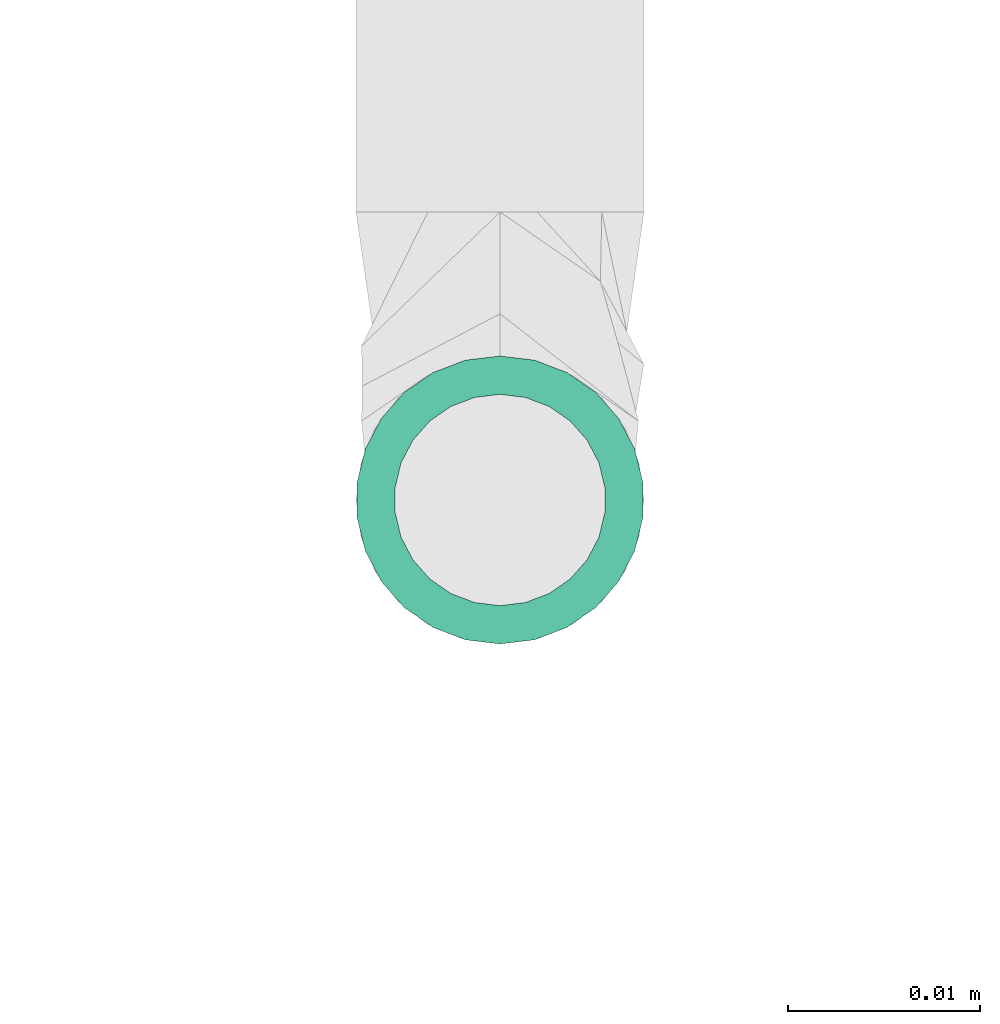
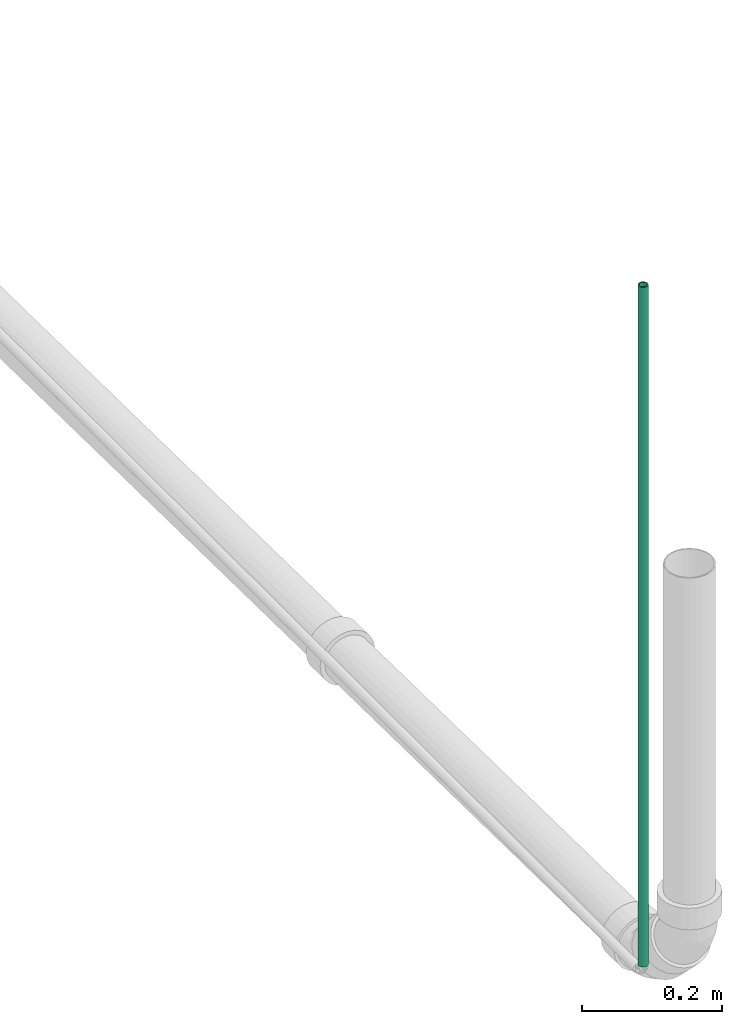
# One storey, part 2 of 18: 1 flow segment.
"""IFC2X3 building model written with IfcOpenShell, lengths in millimetres."""

import ifcopenshell
import ifcopenshell.guid

model = None  # the IFC model being written
_history = None  # IfcOwnerHistory: only IFC2X3 demands one
_inside = {}  # id of a spatial element -> (the spatial element, [elements in it])
_under = {}  # id of a project, library or spatial element -> (it, [spatial elements below it])
_declared = {}  # id of a project -> (the project, [libraries it declares])
_typed = {}  # id of a type object -> (the type object, [elements of that type])
_made_of = {}  # id of a material, layer set ... -> (it, [elements and type objects made of it])


def new_model(schema):
    """Start an empty IFC model of exactly this schema.

    Asked for "IFC4X3", IfcOpenShell would pick the latest addendum, in which some entities
    have other attributes; the version numbers below select the first issue.
    IFC2X3 requires an IfcOwnerHistory on every rooted entity: one is made here for all.
    """
    global model, _history
    if schema == "IFC4X3":
        model = ifcopenshell.file(schema_version=(4, 3, 0, 0))
    else:
        model = ifcopenshell.file(schema=schema)
    _inside.clear()
    _under.clear()
    _declared.clear()
    _typed.clear()
    _made_of.clear()
    _history = None
    if model.schema == "IFC2X3":
        org = make("IfcOrganization", Name="unknown")
        user = make(
            "IfcPersonAndOrganization",
            ThePerson=make("IfcPerson", FamilyName="unknown"),
            TheOrganization=org,
        )
        app = make(
            "IfcApplication",
            ApplicationDeveloper=org,
            Version="unknown",
            ApplicationFullName="unknown",
            ApplicationIdentifier="unknown",
        )
        _history = make(
            "IfcOwnerHistory",
            OwningUser=user,
            OwningApplication=app,
            ChangeAction="ADDED",
            CreationDate=0,
        )
    return model


def make(cls, **values):
    """One entity of the class cls with the attributes given. An attribute that is None is left unset."""
    return model.create_entity(
        cls, **{name: value for name, value in values.items() if value is not None}
    )


def entity(cls, *values):
    """Any entity or typed value of the class cls, its attributes in the order of the schema. None: left unset."""
    e = model.create_entity(cls)
    for i, value in enumerate(values):
        if value is not None:
            e[i] = value
    return e


def rooted(cls, **values):
    """An entity with a GlobalId (a new one), such as an element, a storey or a relation."""
    return make(cls, GlobalId=ifcopenshell.guid.new(), OwnerHistory=_history, **values)


def si_unit(unit_type, name, prefix=None):
    """IfcSIUnit, for example si_unit("LENGTHUNIT", "METRE", prefix="MILLI")."""
    return make("IfcSIUnit", UnitType=unit_type, Prefix=prefix, Name=name)


def converted_unit(unit_type, name, factor, base, dimensions=None, offset=None):
    """IfcConversionBasedUnit, such as the inch: factor (a typed value) times the base unit."""
    return make(
        "IfcConversionBasedUnit"
        if offset is None
        else "IfcConversionBasedUnitWithOffset",
        ConversionOffset=offset,
        Dimensions=None
        if dimensions is None
        else entity("IfcDimensionalExponents", *dimensions),
        UnitType=unit_type,
        Name=name,
        ConversionFactor=make(
            "IfcMeasureWithUnit", ValueComponent=factor, UnitComponent=base
        ),
    )


def derived_unit(unit_type, elements):
    """IfcDerivedUnit: a product of units, each with its exponent."""
    return make(
        "IfcDerivedUnit",
        Elements=[
            make("IfcDerivedUnitElement", Unit=unit, Exponent=power)
            for unit, power in elements
        ],
        UnitType=unit_type,
    )


def assignment(units):
    """IfcUnitAssignment: the units of a project."""
    return None if units is None else make("IfcUnitAssignment", Units=units)


def point(xyz):
    """IfcCartesianPoint."""
    return None if xyz is None else make("IfcCartesianPoint", Coordinates=xyz)


def direction(xyz):
    """IfcDirection."""
    return None if xyz is None else make("IfcDirection", DirectionRatios=xyz)


def frame(location, z_axis=None, x_axis=None):
    """IfcAxis2Placement3D, a coordinate frame: its origin and axes. An axis left out is left unset."""
    return make(
        "IfcAxis2Placement3D",
        Location=point(location),
        Axis=direction(z_axis),
        RefDirection=direction(x_axis),
    )


def frame_2d(location, x_axis=None):
    """IfcAxis2Placement2D, a coordinate frame in the plane: its origin and x axis."""
    return make(
        "IfcAxis2Placement2D", Location=point(location), RefDirection=direction(x_axis)
    )


def origin_with_axes():
    """The frame at (0, 0, 0) with the z axis (0, 0, 1) and the x axis (1, 0, 0) written out."""
    return frame((0.0, 0.0, 0.0), z_axis=(0.0, 0.0, 1.0), x_axis=(1.0, 0.0, 0.0))


def origin_2d_with_axis():
    """The frame at (0, 0) in the plane with the x axis (1, 0) written out."""
    return frame_2d((0.0, 0.0), x_axis=(1.0, 0.0))


def place(relative_to, where):
    """IfcLocalPlacement: puts the frame where relative to a parent placement (None: the world)."""
    return make(
        "IfcLocalPlacement", PlacementRelTo=relative_to, RelativePlacement=where
    )


def context(
    kind, dimensions, precision=None, world=None, true_north=None, identifier=None
):
    """IfcGeometricRepresentationContext, for example the 3D "Model" context."""
    return make(
        "IfcGeometricRepresentationContext",
        ContextIdentifier=identifier,
        ContextType=kind,
        CoordinateSpaceDimension=dimensions,
        Precision=precision,
        WorldCoordinateSystem=world,
        TrueNorth=true_north,
    )


def subcontext(parent, identifier, kind, view, scale=None):
    """IfcGeometricRepresentationSubContext, for example "Body" below "Model"."""
    return make(
        "IfcGeometricRepresentationSubContext",
        ContextIdentifier=identifier,
        ContextType=kind,
        ParentContext=parent,
        TargetScale=scale,
        TargetView=view,
    )


def project(units=None, contexts=None):
    """IfcProject with its units and contexts."""
    return rooted(
        "IfcProject",
        Name="project",
        RepresentationContexts=contexts,
        UnitsInContext=assignment(units),
    )


def spatial(cls, under=None, at=None, **own):
    """A site, building, storey or space (cls), placed at a placement, below another one or the project."""
    s = rooted(cls, ObjectPlacement=at, **own)
    if under is not None:
        _under.setdefault(under.id(), (under, []))[1].append(s)
    return s


def profile(cls, at=None, kind="AREA", **sizes):
    """A parametric profile (cls). Its sizes go by their IFC names, for example OverallWidth=200.0."""
    return make(cls, ProfileType=kind, Position=at, **sizes)


def hollow_circle(**sizes):
    """IfcCircleHollowProfileDef."""
    return profile("IfcCircleHollowProfileDef", **sizes)


def extrude(swept, where, along, depth):
    """IfcExtrudedAreaSolid: the profile swept, set in the frame where, extruded along a direction by depth."""
    return make(
        "IfcExtrudedAreaSolid",
        SweptArea=swept,
        Position=where,
        ExtrudedDirection=direction(along),
        Depth=depth,
    )


def shape(context_of_items, identifier, shape_type, items):
    """IfcShapeRepresentation: the items that make up one representation, for example the "Body"."""
    return make(
        "IfcShapeRepresentation",
        ContextOfItems=context_of_items,
        RepresentationIdentifier=identifier,
        RepresentationType=shape_type,
        Items=items,
    )


def source(mapping_origin, context_of_items, identifier, shape_type, items):
    """IfcRepresentationMap: a shape defined once, which mapped items show again and again."""
    return make(
        "IfcRepresentationMap",
        MappingOrigin=mapping_origin,
        MappedRepresentation=shape(context_of_items, identifier, shape_type, items),
    )


def transform(
    local_origin,
    x_axis=None,
    y_axis=None,
    z_axis=None,
    scale=None,
    scale2=None,
    scale3=None,
    uniform=True,
):
    """IfcCartesianTransformationOperator3D, or its non-uniform kind. x_axis, y_axis, z_axis: its Axis1, 2, 3."""
    if uniform:
        return make(
            "IfcCartesianTransformationOperator3D",
            Axis1=direction(x_axis),
            Axis2=direction(y_axis),
            LocalOrigin=point(local_origin),
            Scale=scale,
            Axis3=direction(z_axis),
        )
    return make(
        "IfcCartesianTransformationOperator3DnonUniform",
        Axis1=direction(x_axis),
        Axis2=direction(y_axis),
        LocalOrigin=point(local_origin),
        Scale=scale,
        Axis3=direction(z_axis),
        Scale2=scale2,
        Scale3=scale3,
    )


def mapped(mapping_source, mapping_target):
    """IfcMappedItem: shows the shape of a source again, moved by a transform."""
    return make(
        "IfcMappedItem", MappingSource=mapping_source, MappingTarget=mapping_target
    )


def made_of(thing, what):
    """Note that an element or type object is made of a material, layer set ...; save() writes the relation."""
    if what is not None:
        _made_of.setdefault(what.id(), (what, []))[1].append(thing)
    return thing


def type_object(cls, material=None, **own):
    """A type object (cls), such as IfcWallType, which elements share."""
    return made_of(rooted(cls, **own), material)


def element(
    cls,
    number,
    at=None,
    inside=None,
    cuts=None,
    type_object=None,
    material=None,
    context=None,
    identifier="Body",
    shape_type=None,
    held_by="IfcProductDefinitionShape",
    body=None,
    shapes=None,
    **own,
):
    """One element of the class cls, such as IfcWall. Its Tag is "e" and its number.

    at: its placement. inside: the storey or other place that contains it. cuts: it is an
    opening in that element (IfcRelVoidsElement). A single representation is given by context,
    identifier, shape_type and body (its items); several are given by shapes. held_by: the class
    of the entity that holds the representations. save() writes the other relations.
    """
    e = rooted(cls, Tag="e%d" % number, ObjectPlacement=at, **own)
    if body is not None:
        shapes = [shape(context, identifier, shape_type, body)]
    if shapes is not None:
        e.Representation = make(held_by, Representations=shapes)
    if inside is not None:
        _inside.setdefault(inside.id(), (inside, []))[1].append(e)
    if cuts is not None:
        rooted(
            "IfcRelVoidsElement", RelatingBuildingElement=cuts, RelatedOpeningElement=e
        )
    if type_object is not None:
        _typed.setdefault(type_object.id(), (type_object, []))[1].append(e)
    return made_of(e, material)


def aggregate(whole, parts):
    """IfcRelAggregates: a whole, such as a stair, and the parts it consists of."""
    return rooted("IfcRelAggregates", RelatingObject=whole, RelatedObjects=parts)


def save(model, path):
    """Write the relations noted so far, then the file.

    IfcRelAggregates (storeys below a building ...), IfcRelContainedInSpatialStructure (elements
    in a storey), IfcRelDefinesByType, IfcRelAssociatesMaterial and IfcRelDeclares: one each for
    every whole, place, type object, material and project.
    """
    for whole, parts in _under.values():
        aggregate(whole, parts)
    for where, things in _inside.values():
        rooted(
            "IfcRelContainedInSpatialStructure",
            RelatedElements=things,
            RelatingStructure=where,
        )
    for kind, things in _typed.values():
        rooted("IfcRelDefinesByType", RelatedObjects=things, RelatingType=kind)
    for what, things in _made_of.values():
        rooted("IfcRelAssociatesMaterial", RelatedObjects=things, RelatingMaterial=what)
    for by, libraries in _declared.values():
        rooted("IfcRelDeclares", RelatingContext=by, RelatedDefinitions=libraries)
    model.write(path)


model = new_model("IFC2X3")

# Units and contexts
model_context = context("Model", 3, precision=0.01, world=frame((0.0, 4.29681676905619e-09, 0.0)), true_north=direction((4.01073788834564e-13, 1.0)))
plan_context = context("Plan", 3, precision=0.01, world=frame((0.0, 4.29681676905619e-09, 0.0)), true_north=direction((4.01073788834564e-13, 1.0)))
body_context = subcontext(model_context, "Body", "Model", "MODEL_VIEW")
ifc_project = project(units=[converted_unit("PLANEANGLEUNIT", "DEGREE", entity("IfcPositiveLengthMeasure", 0.0174532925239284), si_unit("PLANEANGLEUNIT", "RADIAN"), dimensions=[0, 0, 0, 0, 0, 0, 0]), si_unit("AREAUNIT", "SQUARE_METRE"), si_unit("LENGTHUNIT", "METRE", prefix="MILLI"), si_unit("MASSUNIT", "GRAM", prefix="KILO"), si_unit("POWERUNIT", "WATT"), si_unit("PRESSUREUNIT", "PASCAL", prefix="KILO"), si_unit("FORCEUNIT", "NEWTON", prefix="KILO"), si_unit("ELECTRICVOLTAGEUNIT", "VOLT"), si_unit("ELECTRICCURRENTUNIT", "AMPERE"), si_unit("THERMODYNAMICTEMPERATUREUNIT", "DEGREE_CELSIUS"), si_unit("TIMEUNIT", "SECOND"), si_unit("VOLUMEUNIT", "CUBIC_METRE"), derived_unit("LINEARVELOCITYUNIT", [(si_unit("LENGTHUNIT", "METRE"), 1), (si_unit("TIMEUNIT", "SECOND"), -1)]), derived_unit("VOLUMETRICFLOWRATEUNIT", [(si_unit("VOLUMEUNIT", "CUBIC_METRE"), 1), (si_unit("TIMEUNIT", "SECOND"), -1)]), derived_unit("THERMALTRANSMITTANCEUNIT", [(si_unit("POWERUNIT", "WATT"), 1), (si_unit("THERMODYNAMICTEMPERATUREUNIT", "KELVIN"), -1), (si_unit("AREAUNIT", "SQUARE_METRE"), -1)]), derived_unit("SOUNDPRESSUREUNIT", [(si_unit("PRESSUREUNIT", "PASCAL"), 1)])], contexts=[model_context, plan_context])

# Site, building, storey
site_placement = place(None, frame((0.0, -4.29681676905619e-09, 0.0), z_axis=(0.0, 0.0, 1.0), x_axis=(1.0, 0.0, 0.0)))
site = spatial("IfcSite", under=ifc_project, at=site_placement, Name="ENGM", CompositionType="ELEMENT")
building_placement = place(site_placement, frame((0.0, 4.29681676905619e-09, 0.0), z_axis=(0.0, 0.0, 1.0), x_axis=(1.0, 0.0, 0.0)))
building = spatial("IfcBuilding", under=site, at=building_placement, Name="TI", CompositionType="ELEMENT")
storey_placement = place(building_placement, frame((0.0, 0.0, 204000.0), z_axis=(0.0, 0.0, 1.0), x_axis=(1.0, 0.0, 0.0)))
storey = spatial("IfcBuildingStorey", under=building, at=storey_placement, Name="Nivå D", CompositionType="ELEMENT", Elevation=204000.0)

# Flow segment
pipe_segment_type = type_object("IfcPipeSegmentType", Name="Kobberrør", PredefinedType="RIGIDSEGMENT")
shared_shape = source(origin_with_axes(), body_context, "Body", "SweptSolid", [
    extrude(hollow_circle(Radius=7.5, WallThickness=2.0, at=origin_2d_with_axis()), frame((0.0, 0.0, 0.0), z_axis=(1.0, 0.0, 0.0), x_axis=(0.0, 1.0, 0.0)), (0.0, 0.0, 1.0), 1182.2),
])
flow_segment_placement = place(storey_placement, frame((592944.82673, 570282.17632, 6355.0), z_axis=(1.0, 0.0, 0.0), x_axis=(0.0, 0.0, 1.0)))
element("IfcFlowSegment", 1, at=flow_segment_placement, inside=storey, type_object=pipe_segment_type, Name="Kobberrør", context=body_context, shape_type="MappedRepresentation", body=[
    mapped(shared_shape, transform((0.0, 0.0, 0.0), scale=1.0)),
])

save(model, "model.ifc")
